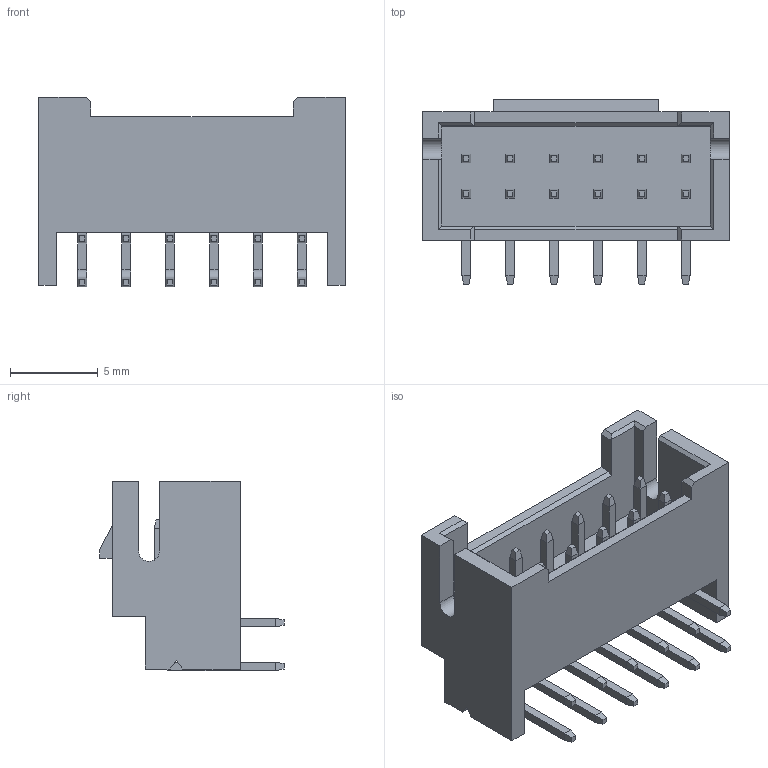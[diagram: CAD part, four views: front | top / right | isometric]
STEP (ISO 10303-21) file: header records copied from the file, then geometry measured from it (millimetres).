
FILE_DESCRIPTION(('CATIA V5 STEP Exchange'),'2;1');
FILE_NAME('Z:\3D文件\小黄（备用文件夹）\条形连接器-小黄\HX\2xNAW\HC-HX-2x6AWD-05（2.50 双排 定位弯针-HCTL）.stp','2025-05-29T02:32:24+00:00',('none'),('none'),'CATIA Version 5 Release 20 GA (IN-10)','CATIA V5 STEP AP203','none');
FILE_SCHEMA(('CONFIG_CONTROL_DESIGN'));
Length unit declared in the file: millimetre
Products named in the file (1): Part2
Bounding box: 17.45 x 10.5 x 10.8 mm (x, y, z)
Volume: 466 mm3; surface area: 1170.7 mm2
Topology: 1 solids, 1 shells, 331 faces, 811 edges, 506 vertices
Faces by surface type: plane 305, cylinder 26
Entity records: 8281 total; most frequent: ORIENTED_EDGE 1622, CARTESIAN_POINT 1423, DIRECTION 1009, EDGE_CURVE 811, VECTOR 743, LINE 743, VERTEX_POINT 506, EDGE_LOOP 355
